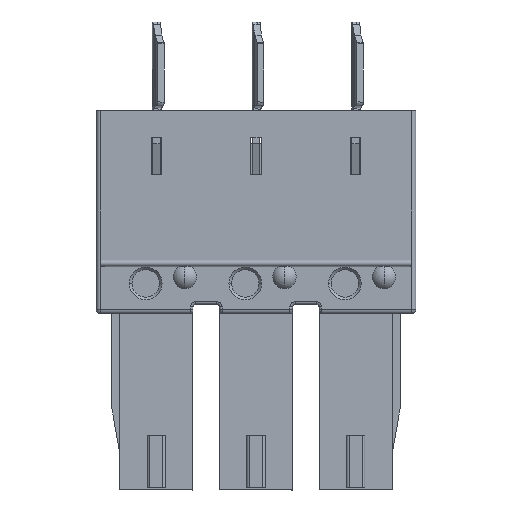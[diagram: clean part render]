
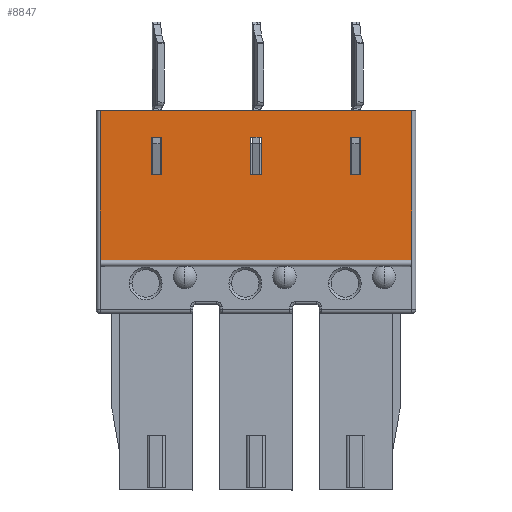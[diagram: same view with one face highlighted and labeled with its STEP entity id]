
A CAD part, front view. The second image highlights one B-rep face of the part: STEP entity #8847.
In plain terms, the highlighted planar face has unit normal (0, -1, 0).
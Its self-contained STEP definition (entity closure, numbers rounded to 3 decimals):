
#1=DIRECTION('',(-1.,0.,0.));
#2=VECTOR('',#1,11.92);
#3=CARTESIAN_POINT('',(26.078,0.25,-3.4));
#4=LINE('',#3,#2);
#153=DIRECTION('',(1.,0.,0.));
#154=VECTOR('',#153,11.92);
#155=CARTESIAN_POINT('',(14.158,0.25,-9.105));
#156=LINE('',#155,#154);
#1865=DIRECTION('',(-1.,0.,0.));
#1866=VECTOR('',#1865,0.4);
#1867=CARTESIAN_POINT('',(16.508,0.25,-5.85));
#1868=LINE('',#1867,#1866);
#1889=DIRECTION('',(0.,0.,-1.));
#1890=VECTOR('',#1889,1.45);
#1891=CARTESIAN_POINT('',(16.508,0.25,-4.4));
#1892=LINE('',#1891,#1890);
#2033=DIRECTION('',(0.,0.,1.));
#2034=VECTOR('',#2033,1.45);
#2035=CARTESIAN_POINT('',(16.108,0.25,-5.85));
#2036=LINE('',#2035,#2034);
#2045=DIRECTION('',(1.,0.,0.));
#2046=VECTOR('',#2045,0.4);
#2047=CARTESIAN_POINT('',(16.108,0.25,-4.4));
#2048=LINE('',#2047,#2046);
#3389=DIRECTION('',(-1.,0.,0.));
#3390=VECTOR('',#3389,0.4);
#3391=CARTESIAN_POINT('',(24.128,0.25,-5.85));
#3392=LINE('',#3391,#3390);
#3413=DIRECTION('',(0.,0.,-1.));
#3414=VECTOR('',#3413,1.45);
#3415=CARTESIAN_POINT('',(24.128,0.25,-4.4));
#3416=LINE('',#3415,#3414);
#3541=DIRECTION('',(0.,0.,1.));
#3542=VECTOR('',#3541,1.45);
#3543=CARTESIAN_POINT('',(23.728,0.25,-5.85));
#3544=LINE('',#3543,#3542);
#3553=DIRECTION('',(1.,0.,0.));
#3554=VECTOR('',#3553,0.4);
#3555=CARTESIAN_POINT('',(23.728,0.25,-4.4));
#3556=LINE('',#3555,#3554);
#4913=DIRECTION('',(-1.,0.,0.));
#4914=VECTOR('',#4913,0.4);
#4915=CARTESIAN_POINT('',(20.318,0.25,-5.85));
#4916=LINE('',#4915,#4914);
#4937=DIRECTION('',(0.,0.,-1.));
#4938=VECTOR('',#4937,1.45);
#4939=CARTESIAN_POINT('',(20.318,0.25,-4.4));
#4940=LINE('',#4939,#4938);
#5089=DIRECTION('',(0.,0.,1.));
#5090=VECTOR('',#5089,1.45);
#5091=CARTESIAN_POINT('',(19.918,0.25,-5.85));
#5092=LINE('',#5091,#5090);
#5101=DIRECTION('',(1.,0.,0.));
#5102=VECTOR('',#5101,0.4);
#5103=CARTESIAN_POINT('',(19.918,0.25,-4.4));
#5104=LINE('',#5103,#5102);
#5425=DIRECTION('',(0.,0.,-1.));
#5426=VECTOR('',#5425,5.705);
#5427=CARTESIAN_POINT('',(14.158,0.25,-3.4));
#5428=LINE('',#5427,#5426);
#6109=DIRECTION('',(0.,0.,1.));
#6110=VECTOR('',#6109,5.705);
#6111=CARTESIAN_POINT('',(26.078,0.25,-9.105));
#6112=LINE('',#6111,#6110);
#7001=CARTESIAN_POINT('',(26.078,0.25,-3.4));
#7002=CARTESIAN_POINT('',(14.158,0.25,-3.4));
#7003=VERTEX_POINT('',#7001);
#7004=VERTEX_POINT('',#7002);
#7113=CARTESIAN_POINT('',(14.158,0.25,-9.105));
#7114=CARTESIAN_POINT('',(26.078,0.25,-9.105));
#7115=VERTEX_POINT('',#7113);
#7116=VERTEX_POINT('',#7114);
#7117=CARTESIAN_POINT('',(16.508,0.25,-4.4));
#7118=CARTESIAN_POINT('',(16.508,0.25,-5.85));
#7119=VERTEX_POINT('',#7117);
#7120=VERTEX_POINT('',#7118);
#7121=CARTESIAN_POINT('',(16.108,0.25,-4.4));
#7122=VERTEX_POINT('',#7121);
#7123=CARTESIAN_POINT('',(16.108,0.25,-5.85));
#7124=VERTEX_POINT('',#7123);
#7125=CARTESIAN_POINT('',(20.318,0.25,-4.4));
#7126=CARTESIAN_POINT('',(20.318,0.25,-5.85));
#7127=VERTEX_POINT('',#7125);
#7128=VERTEX_POINT('',#7126);
#7129=CARTESIAN_POINT('',(19.918,0.25,-4.4));
#7130=VERTEX_POINT('',#7129);
#7131=CARTESIAN_POINT('',(19.918,0.25,-5.85));
#7132=VERTEX_POINT('',#7131);
#7133=CARTESIAN_POINT('',(24.128,0.25,-4.4));
#7134=CARTESIAN_POINT('',(24.128,0.25,-5.85));
#7135=VERTEX_POINT('',#7133);
#7136=VERTEX_POINT('',#7134);
#7137=CARTESIAN_POINT('',(23.728,0.25,-4.4));
#7138=VERTEX_POINT('',#7137);
#7139=CARTESIAN_POINT('',(23.728,0.25,-5.85));
#7140=VERTEX_POINT('',#7139);
#8803=CARTESIAN_POINT('',(31.078,0.25,-3.4));
#8804=DIRECTION('',(0.,-1.,0.));
#8805=DIRECTION('',(0.,0.,-1.));
#8806=AXIS2_PLACEMENT_3D('',#8803,#8804,#8805);
#8807=PLANE('',#8806);
#8809=ORIENTED_EDGE('',*,*,#8808,.F.);
#8811=ORIENTED_EDGE('',*,*,#8810,.F.);
#8812=ORIENTED_EDGE('',*,*,#8688,.F.);
#8814=ORIENTED_EDGE('',*,*,#8813,.F.);
#8815=EDGE_LOOP('',(#8809,#8811,#8812,#8814));
#8816=FACE_OUTER_BOUND('',#8815,.F.);
#8818=ORIENTED_EDGE('',*,*,#8817,.F.);
#8820=ORIENTED_EDGE('',*,*,#8819,.F.);
#8822=ORIENTED_EDGE('',*,*,#8821,.F.);
#8824=ORIENTED_EDGE('',*,*,#8823,.F.);
#8825=EDGE_LOOP('',(#8818,#8820,#8822,#8824));
#8826=FACE_BOUND('',#8825,.F.);
#8828=ORIENTED_EDGE('',*,*,#8827,.F.);
#8830=ORIENTED_EDGE('',*,*,#8829,.F.);
#8832=ORIENTED_EDGE('',*,*,#8831,.F.);
#8834=ORIENTED_EDGE('',*,*,#8833,.F.);
#8835=EDGE_LOOP('',(#8828,#8830,#8832,#8834));
#8836=FACE_BOUND('',#8835,.F.);
#8838=ORIENTED_EDGE('',*,*,#8837,.F.);
#8840=ORIENTED_EDGE('',*,*,#8839,.F.);
#8842=ORIENTED_EDGE('',*,*,#8841,.F.);
#8844=ORIENTED_EDGE('',*,*,#8843,.F.);
#8845=EDGE_LOOP('',(#8838,#8840,#8842,#8844));
#8846=FACE_BOUND('',#8845,.F.);
#8847=ADVANCED_FACE('',(#8816,#8826,#8836,#8846),#8807,.T.);
#8688=EDGE_CURVE('',#7003,#7004,#4,.T.);
#8808=EDGE_CURVE('',#7115,#7116,#156,.T.);
#8810=EDGE_CURVE('',#7004,#7115,#5428,.T.);
#8813=EDGE_CURVE('',#7116,#7003,#6112,.T.);
#8817=EDGE_CURVE('',#7119,#7120,#1892,.T.);
#8819=EDGE_CURVE('',#7122,#7119,#2048,.T.);
#8821=EDGE_CURVE('',#7124,#7122,#2036,.T.);
#8823=EDGE_CURVE('',#7120,#7124,#1868,.T.);
#8827=EDGE_CURVE('',#7127,#7128,#4940,.T.);
#8829=EDGE_CURVE('',#7130,#7127,#5104,.T.);
#8831=EDGE_CURVE('',#7132,#7130,#5092,.T.);
#8833=EDGE_CURVE('',#7128,#7132,#4916,.T.);
#8837=EDGE_CURVE('',#7135,#7136,#3416,.T.);
#8839=EDGE_CURVE('',#7138,#7135,#3556,.T.);
#8841=EDGE_CURVE('',#7140,#7138,#3544,.T.);
#8843=EDGE_CURVE('',#7136,#7140,#3392,.T.);
